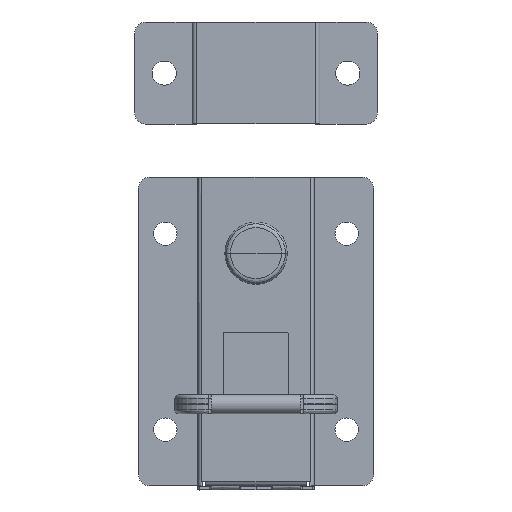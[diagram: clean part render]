
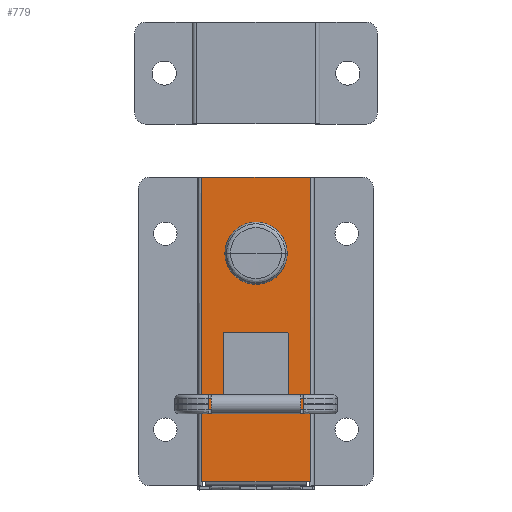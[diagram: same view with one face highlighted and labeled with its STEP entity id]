
A CAD part, top view. The second image highlights one B-rep face of the part: STEP entity #779.
In plain terms, the highlighted planar face has unit normal (0, 0, 1).
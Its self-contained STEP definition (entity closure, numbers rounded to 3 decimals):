
#66=FACE_BOUND('',#2394,.T.);
#67=FACE_BOUND('',#2395,.T.);
#779=ADVANCED_FACE('',(#1578,#66,#67),#13739,.T.);
#1578=FACE_OUTER_BOUND('',#2393,.T.);
#2393=EDGE_LOOP('',(#6390,#6391,#6392,#6393,#6394,#6395));
#2394=EDGE_LOOP('',(#6396,#6397));
#2395=EDGE_LOOP('',(#6398,#6399));
#6390=ORIENTED_EDGE('',*,*,#8684,.T.);
#6391=ORIENTED_EDGE('',*,*,#8746,.T.);
#6392=ORIENTED_EDGE('',*,*,#8733,.T.);
#6393=ORIENTED_EDGE('',*,*,#8747,.T.);
#6394=ORIENTED_EDGE('',*,*,#8731,.F.);
#6395=ORIENTED_EDGE('',*,*,#8748,.T.);
#6396=ORIENTED_EDGE('',*,*,#8738,.T.);
#6397=ORIENTED_EDGE('',*,*,#8861,.T.);
#6398=ORIENTED_EDGE('',*,*,#8741,.T.);
#6399=ORIENTED_EDGE('',*,*,#8864,.T.);
#8684=EDGE_CURVE('',#12793,#12792,#11465,.T.);
#8731=EDGE_CURVE('',#12865,#12825,#11512,.T.);
#8733=EDGE_CURVE('',#12866,#12829,#11514,.T.);
#8738=EDGE_CURVE('',#12870,#12899,#9003,.T.);
#8741=EDGE_CURVE('',#12872,#12901,#9355,.T.);
#8746=EDGE_CURVE('',#12792,#12866,#11520,.T.);
#8747=EDGE_CURVE('',#12829,#12825,#11521,.T.);
#8748=EDGE_CURVE('',#12865,#12793,#11522,.T.);
#8861=EDGE_CURVE('',#12899,#12870,#9007,.T.);
#8864=EDGE_CURVE('',#12901,#12872,#9421,.T.);
#9003=(
BOUNDED_CURVE()
B_SPLINE_CURVE(3,(#27045,#27046,#27047,#27048,#27049,#27050,#27051,#27052,
#27053,#27054,#27055,#27056,#27057,#27058,#27059,#27060),.UNSPECIFIED.,
 .F.,.F.)
B_SPLINE_CURVE_WITH_KNOTS((4,3,3,3,3,4),(-52.11,-51.582,
-37.682,-37.155,-26.055,-25.528),
 .UNSPECIFIED.)
CURVE()
GEOMETRIC_REPRESENTATION_ITEM()
RATIONAL_B_SPLINE_CURVE((1.,0.805,0.805,1.,1.,1.,
1.,0.805,0.805,1.,1.,1.,1.,0.805,0.805,
1.))
REPRESENTATION_ITEM('')
);
#9007=(
BOUNDED_CURVE()
B_SPLINE_CURVE(3,(#27385,#27386,#27387,#27388,#27389,#27390,#27391,#27392,
#27393,#27394),.UNSPECIFIED.,.F.,.F.)
B_SPLINE_CURVE_WITH_KNOTS((4,3,3,4),(-25.528,-11.627,
-11.1,0.),.UNSPECIFIED.)
CURVE()
GEOMETRIC_REPRESENTATION_ITEM()
RATIONAL_B_SPLINE_CURVE((1.,1.,1.,1.,0.805,0.805,
1.,1.,1.,1.))
REPRESENTATION_ITEM('')
);
#9355=TRIMMED_CURVE($,#9835,(#27067),(#27068),.T.,.CARTESIAN.);
#9421=TRIMMED_CURVE($,#9901,(#27401),(#27402),.T.,.CARTESIAN.);
#9835=CIRCLE('',#15087,2.1);
#9901=CIRCLE('',#15153,2.1);
#11465=B_SPLINE_CURVE_WITH_KNOTS('',1,(#26929,#26930),.UNSPECIFIED.,.F.,
 .F.,(2,2),(-19.402,0.),.UNSPECIFIED.);
#11512=B_SPLINE_CURVE_WITH_KNOTS('',1,(#27023,#27024),.UNSPECIFIED.,.F.,
 .F.,(2,2),(0.,0.701),.UNSPECIFIED.);
#11514=B_SPLINE_CURVE_WITH_KNOTS('',1,(#27027,#27028),.UNSPECIFIED.,.F.,
 .F.,(2,2),(-0.701,0.),.UNSPECIFIED.);
#11520=B_SPLINE_CURVE_WITH_KNOTS('',1,(#27079,#27080),.UNSPECIFIED.,.F.,
 .F.,(2,2),(0.,54.3),.UNSPECIFIED.);
#11521=B_SPLINE_CURVE_WITH_KNOTS('',1,(#27081,#27082),.UNSPECIFIED.,.F.,
 .F.,(2,2),(0.,18.),.UNSPECIFIED.);
#11522=B_SPLINE_CURVE_WITH_KNOTS('',1,(#27083,#27084),.UNSPECIFIED.,.F.,
 .F.,(2,2),(0.,54.3),.UNSPECIFIED.);
#12792=VERTEX_POINT('',#26707);
#12793=VERTEX_POINT('',#26708);
#12825=VERTEX_POINT('',#26740);
#12829=VERTEX_POINT('',#26744);
#12865=VERTEX_POINT('',#26780);
#12866=VERTEX_POINT('',#26781);
#12870=VERTEX_POINT('',#26785);
#12872=VERTEX_POINT('',#26787);
#12899=VERTEX_POINT('',#26814);
#12901=VERTEX_POINT('',#26816);
#13739=PLANE('',#15027);
#15027=AXIS2_PLACEMENT_3D('',#26584,#16596,$);
#15087=AXIS2_PLACEMENT_3D($,#27066,#16667,#16668);
#15153=AXIS2_PLACEMENT_3D($,#27400,#16799,#16800);
#16596=DIRECTION('',(0.,0.,1.));
#16667=DIRECTION('',(0.,0.,-1.));
#16668=DIRECTION('',(1.,0.,0.));
#16799=DIRECTION('',(0.,0.,-1.));
#16800=DIRECTION('',(-1.,0.,0.));
#26584=CARTESIAN_POINT('',(12.252,19.64,-6.5));
#26707=CARTESIAN_POINT('',(-9.7,13.6,-6.5));
#26708=CARTESIAN_POINT('',(9.702,13.6,-6.5));
#26740=CARTESIAN_POINT('',(9.001,-40.7,-6.5));
#26744=CARTESIAN_POINT('',(-8.999,-40.7,-6.5));
#26780=CARTESIAN_POINT('',(9.702,-40.7,-6.5));
#26781=CARTESIAN_POINT('',(-9.7,-40.7,-6.5));
#26785=CARTESIAN_POINT('',(-5.55,-28.6,-6.5));
#26787=CARTESIAN_POINT('',(2.1,0.,-6.5));
#26814=CARTESIAN_POINT('',(5.85,-14.399,-6.5));
#26816=CARTESIAN_POINT('',(-2.1,0.,-6.5));
#26929=CARTESIAN_POINT('',(9.702,13.6,-6.5));
#26930=CARTESIAN_POINT('',(-9.7,13.6,-6.5));
#27023=CARTESIAN_POINT('',(9.702,-40.7,-6.5));
#27024=CARTESIAN_POINT('',(9.001,-40.7,-6.5));
#27027=CARTESIAN_POINT('',(-9.7,-40.7,-6.5));
#27028=CARTESIAN_POINT('',(-8.999,-40.7,-6.5));
#27045=CARTESIAN_POINT('',(-5.55,-28.6,-6.5));
#27046=CARTESIAN_POINT('',(-5.726,-28.6,-6.5));
#27047=CARTESIAN_POINT('',(-5.85,-28.475,-6.5));
#27048=CARTESIAN_POINT('',(-5.85,-28.3,-6.5));
#27049=CARTESIAN_POINT('',(-5.85,-23.666,-6.5));
#27050=CARTESIAN_POINT('',(-5.85,-19.033,-6.5));
#27051=CARTESIAN_POINT('',(-5.85,-14.399,-6.5));
#27052=CARTESIAN_POINT('',(-5.85,-14.223,-6.5));
#27053=CARTESIAN_POINT('',(-5.726,-14.099,-6.5));
#27054=CARTESIAN_POINT('',(-5.55,-14.099,-6.5));
#27055=CARTESIAN_POINT('',(-1.85,-14.099,-6.5));
#27056=CARTESIAN_POINT('',(1.85,-14.099,-6.5));
#27057=CARTESIAN_POINT('',(5.55,-14.099,-6.5));
#27058=CARTESIAN_POINT('',(5.726,-14.099,-6.5));
#27059=CARTESIAN_POINT('',(5.85,-14.223,-6.5));
#27060=CARTESIAN_POINT('',(5.85,-14.399,-6.5));
#27066=CARTESIAN_POINT('',(0.,0.,-6.5));
#27067=CARTESIAN_POINT('',(2.1,0.,-6.5));
#27068=CARTESIAN_POINT('',(-2.1,0.,-6.5));
#27079=CARTESIAN_POINT('',(-9.7,13.6,-6.5));
#27080=CARTESIAN_POINT('',(-9.7,-40.7,-6.5));
#27081=CARTESIAN_POINT('',(-8.999,-40.7,-6.5));
#27082=CARTESIAN_POINT('',(9.001,-40.7,-6.5));
#27083=CARTESIAN_POINT('',(9.702,-40.7,-6.5));
#27084=CARTESIAN_POINT('',(9.702,13.6,-6.5));
#27385=CARTESIAN_POINT('',(5.85,-14.399,-6.5));
#27386=CARTESIAN_POINT('',(5.85,-19.033,-6.5));
#27387=CARTESIAN_POINT('',(5.85,-23.666,-6.5));
#27388=CARTESIAN_POINT('',(5.85,-28.3,-6.5));
#27389=CARTESIAN_POINT('',(5.85,-28.475,-6.5));
#27390=CARTESIAN_POINT('',(5.726,-28.6,-6.5));
#27391=CARTESIAN_POINT('',(5.55,-28.6,-6.5));
#27392=CARTESIAN_POINT('',(1.85,-28.6,-6.5));
#27393=CARTESIAN_POINT('',(-1.85,-28.6,-6.5));
#27394=CARTESIAN_POINT('',(-5.55,-28.6,-6.5));
#27400=CARTESIAN_POINT('',(0.,0.,-6.5));
#27401=CARTESIAN_POINT('',(-2.1,0.,-6.5));
#27402=CARTESIAN_POINT('',(2.1,0.,-6.5));
